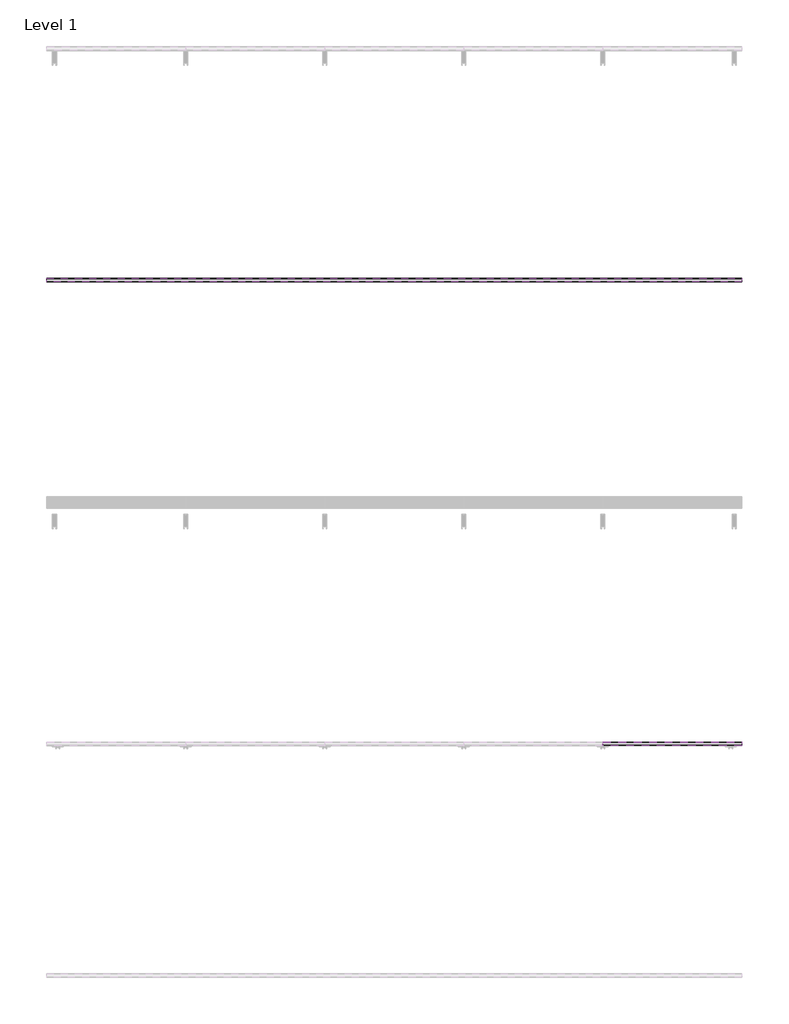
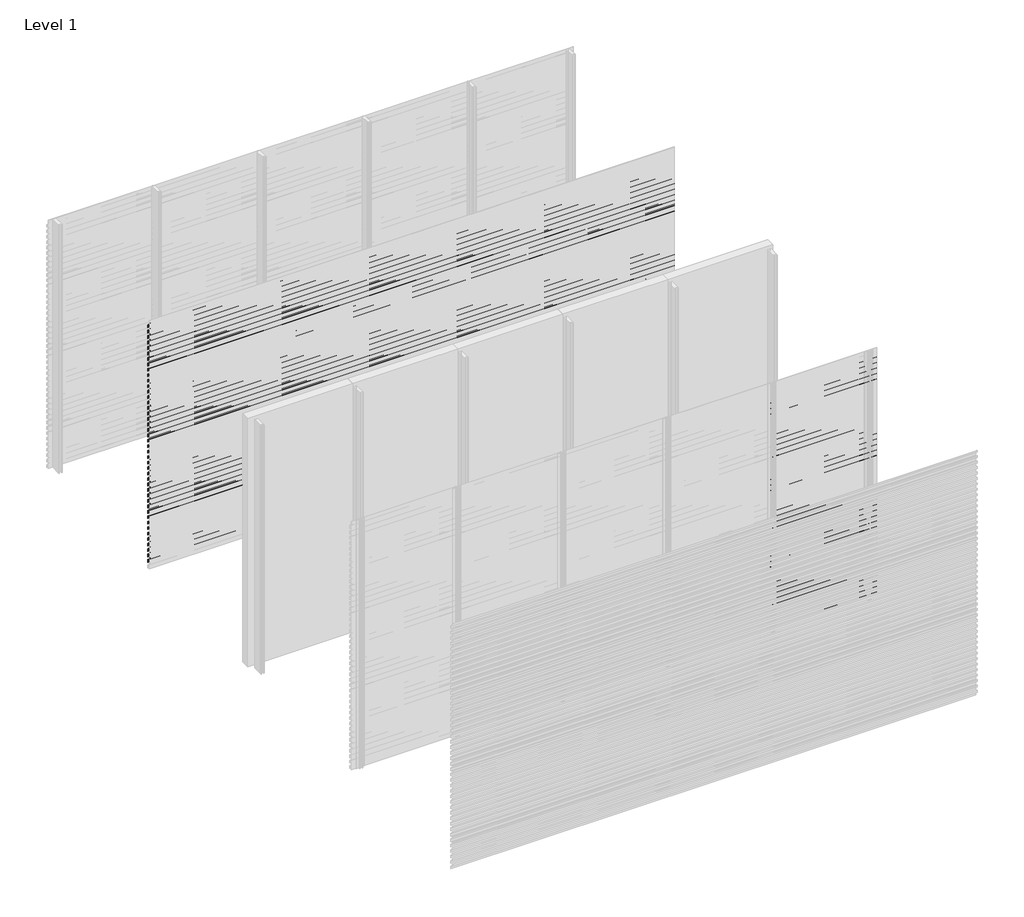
# One storey, part 6 of 33: 88 proxies.
"""IFC4 building model written with IfcOpenShell, lengths in millimetres."""

import ifcopenshell
import ifcopenshell.guid

model = None  # the IFC model being written
_history = None  # IfcOwnerHistory: only IFC2X3 demands one
_inside = {}  # id of a spatial element -> (the spatial element, [elements in it])
_under = {}  # id of a project, library or spatial element -> (it, [spatial elements below it])
_declared = {}  # id of a project -> (the project, [libraries it declares])
_typed = {}  # id of a type object -> (the type object, [elements of that type])
_made_of = {}  # id of a material, layer set ... -> (it, [elements and type objects made of it])


def new_model(schema):
    """Start an empty IFC model of exactly this schema.

    Asked for "IFC4X3", IfcOpenShell would pick the latest addendum, in which some entities
    have other attributes; the version numbers below select the first issue.
    IFC2X3 requires an IfcOwnerHistory on every rooted entity: one is made here for all.
    """
    global model, _history
    if schema == "IFC4X3":
        model = ifcopenshell.file(schema_version=(4, 3, 0, 0))
    else:
        model = ifcopenshell.file(schema=schema)
    _inside.clear()
    _under.clear()
    _declared.clear()
    _typed.clear()
    _made_of.clear()
    _history = None
    if model.schema == "IFC2X3":
        org = make("IfcOrganization", Name="unknown")
        user = make(
            "IfcPersonAndOrganization",
            ThePerson=make("IfcPerson", FamilyName="unknown"),
            TheOrganization=org,
        )
        app = make(
            "IfcApplication",
            ApplicationDeveloper=org,
            Version="unknown",
            ApplicationFullName="unknown",
            ApplicationIdentifier="unknown",
        )
        _history = make(
            "IfcOwnerHistory",
            OwningUser=user,
            OwningApplication=app,
            ChangeAction="ADDED",
            CreationDate=0,
        )
    return model


def make(cls, **values):
    """One entity of the class cls with the attributes given. An attribute that is None is left unset."""
    return model.create_entity(
        cls, **{name: value for name, value in values.items() if value is not None}
    )


def rooted(cls, **values):
    """An entity with a GlobalId (a new one), such as an element, a storey or a relation."""
    return make(cls, GlobalId=ifcopenshell.guid.new(), OwnerHistory=_history, **values)


def si_unit(unit_type, name, prefix=None):
    """IfcSIUnit, for example si_unit("LENGTHUNIT", "METRE", prefix="MILLI")."""
    return make("IfcSIUnit", UnitType=unit_type, Prefix=prefix, Name=name)


def assignment(units):
    """IfcUnitAssignment: the units of a project."""
    return None if units is None else make("IfcUnitAssignment", Units=units)


def point(xyz):
    """IfcCartesianPoint."""
    return None if xyz is None else make("IfcCartesianPoint", Coordinates=xyz)


def direction(xyz):
    """IfcDirection."""
    return None if xyz is None else make("IfcDirection", DirectionRatios=xyz)


def frame(location, z_axis=None, x_axis=None):
    """IfcAxis2Placement3D, a coordinate frame: its origin and axes. An axis left out is left unset."""
    return make(
        "IfcAxis2Placement3D",
        Location=point(location),
        Axis=direction(z_axis),
        RefDirection=direction(x_axis),
    )


def origin():
    """The frame at (0, 0, 0) with its axes left unset."""
    return frame((0.0, 0.0, 0.0))


def place(relative_to, where):
    """IfcLocalPlacement: puts the frame where relative to a parent placement (None: the world)."""
    return make(
        "IfcLocalPlacement", PlacementRelTo=relative_to, RelativePlacement=where
    )


def context(
    kind, dimensions, precision=None, world=None, true_north=None, identifier=None
):
    """IfcGeometricRepresentationContext, for example the 3D "Model" context."""
    return make(
        "IfcGeometricRepresentationContext",
        ContextIdentifier=identifier,
        ContextType=kind,
        CoordinateSpaceDimension=dimensions,
        Precision=precision,
        WorldCoordinateSystem=world,
        TrueNorth=true_north,
    )


def project(units=None, contexts=None):
    """IfcProject with its units and contexts."""
    return rooted(
        "IfcProject",
        Name="project",
        RepresentationContexts=contexts,
        UnitsInContext=assignment(units),
    )


def spatial(cls, under=None, at=None, **own):
    """A site, building, storey or space (cls), placed at a placement, below another one or the project."""
    s = rooted(cls, ObjectPlacement=at, **own)
    if under is not None:
        _under.setdefault(under.id(), (under, []))[1].append(s)
    return s


def polyline(points):
    """IfcPolyline through the points."""
    return make("IfcPolyline", Points=[point(p) for p in points])


def outline(outer, holes=None, kind="AREA"):
    """IfcArbitraryClosedProfileDef: a profile drawn as a closed curve; with holes, ...WithVoids."""
    if holes is None:
        return make("IfcArbitraryClosedProfileDef", ProfileType=kind, OuterCurve=outer)
    return make(
        "IfcArbitraryProfileDefWithVoids",
        ProfileType=kind,
        OuterCurve=outer,
        InnerCurves=holes,
    )


def extrude(swept, where, along, depth):
    """IfcExtrudedAreaSolid: the profile swept, set in the frame where, extruded along a direction by depth."""
    return make(
        "IfcExtrudedAreaSolid",
        SweptArea=swept,
        Position=where,
        ExtrudedDirection=direction(along),
        Depth=depth,
    )


def shape(context_of_items, identifier, shape_type, items):
    """IfcShapeRepresentation: the items that make up one representation, for example the "Body"."""
    return make(
        "IfcShapeRepresentation",
        ContextOfItems=context_of_items,
        RepresentationIdentifier=identifier,
        RepresentationType=shape_type,
        Items=items,
    )


def made_of(thing, what):
    """Note that an element or type object is made of a material, layer set ...; save() writes the relation."""
    if what is not None:
        _made_of.setdefault(what.id(), (what, []))[1].append(thing)
    return thing


def element(
    cls,
    number,
    at=None,
    inside=None,
    cuts=None,
    type_object=None,
    material=None,
    context=None,
    identifier="Body",
    shape_type=None,
    held_by="IfcProductDefinitionShape",
    body=None,
    shapes=None,
    **own,
):
    """One element of the class cls, such as IfcWall. Its Tag is "e" and its number.

    at: its placement. inside: the storey or other place that contains it. cuts: it is an
    opening in that element (IfcRelVoidsElement). A single representation is given by context,
    identifier, shape_type and body (its items); several are given by shapes. held_by: the class
    of the entity that holds the representations. save() writes the other relations.
    """
    e = rooted(cls, Tag="e%d" % number, ObjectPlacement=at, **own)
    if body is not None:
        shapes = [shape(context, identifier, shape_type, body)]
    if shapes is not None:
        e.Representation = make(held_by, Representations=shapes)
    if inside is not None:
        _inside.setdefault(inside.id(), (inside, []))[1].append(e)
    if cuts is not None:
        rooted(
            "IfcRelVoidsElement", RelatingBuildingElement=cuts, RelatedOpeningElement=e
        )
    if type_object is not None:
        _typed.setdefault(type_object.id(), (type_object, []))[1].append(e)
    return made_of(e, material)


def aggregate(whole, parts):
    """IfcRelAggregates: a whole, such as a stair, and the parts it consists of."""
    return rooted("IfcRelAggregates", RelatingObject=whole, RelatedObjects=parts)


def save(model, path):
    """Write the relations noted so far, then the file.

    IfcRelAggregates (storeys below a building ...), IfcRelContainedInSpatialStructure (elements
    in a storey), IfcRelDefinesByType, IfcRelAssociatesMaterial and IfcRelDeclares: one each for
    every whole, place, type object, material and project.
    """
    for whole, parts in _under.values():
        aggregate(whole, parts)
    for where, things in _inside.values():
        rooted(
            "IfcRelContainedInSpatialStructure",
            RelatedElements=things,
            RelatingStructure=where,
        )
    for kind, things in _typed.values():
        rooted("IfcRelDefinesByType", RelatedObjects=things, RelatingType=kind)
    for what, things in _made_of.values():
        rooted("IfcRelAssociatesMaterial", RelatedObjects=things, RelatingMaterial=what)
    for by, libraries in _declared.values():
        rooted("IfcRelDeclares", RelatingContext=by, RelatedDefinitions=libraries)
    model.write(path)


model = new_model("IFC4")

# Units and contexts
model_context = context("Model", 3, world=origin())
ifc_project = project(units=[si_unit("LENGTHUNIT", "METRE", prefix="MILLI")], contexts=[model_context])

# Site, building, storey
site = spatial("IfcSite", under=ifc_project)
building = spatial("IfcBuilding", under=site)
storey = spatial("IfcBuildingStorey", under=building, Name="Level 1", Elevation=0.0)

# Proxies
placement = place(None, origin())
element("IfcBuildingElementProxy", 1, Name="Wall Sweeps", at=placement, inside=storey, context=model_context, shape_type="SweptSolid", body=[
    extrude(outline(polyline([(-49967.0, 2930.0), (-49967.0, 2897.0), (-49968.25, 2897.7216933), (-49968.25, 2929.2872415), (-49998.0, 2950.0588647), (-49998.0, 2970.0), (-49996.75, 2970.0), (-49996.75, 2950.7716232), (-49967.0, 2930.0)])), frame((0.0, 0.0, 0.0), z_axis=(1.0, 0.0, 0.0), x_axis=(0.0, 1.0, 0.0)), (0.0, 0.0, 1.0), 6000.0),
])
element("IfcBuildingElementProxy", 2, Name="Wall Sweeps", at=placement, inside=storey, context=model_context, shape_type="SweptSolid", body=[
    extrude(outline(polyline([(-49967.0, 2864.0), (-49967.0, 2831.0), (-49968.25, 2831.7216933), (-49968.25, 2863.2872415), (-49998.0, 2884.0588647), (-49998.0, 2904.0), (-49996.75, 2904.0), (-49996.75, 2884.7716232), (-49967.0, 2864.0)])), frame((0.0, 0.0, 0.0), z_axis=(1.0, 0.0, 0.0), x_axis=(0.0, 1.0, 0.0)), (0.0, 0.0, 1.0), 6000.0),
])
element("IfcBuildingElementProxy", 3, Name="Wall Sweeps", at=placement, inside=storey, context=model_context, shape_type="SweptSolid", body=[
    extrude(outline(polyline([(-49967.0, 2798.0), (-49967.0, 2765.0), (-49968.25, 2765.7216933), (-49968.25, 2797.2872415), (-49998.0, 2818.0588647), (-49998.0, 2838.0), (-49996.75, 2838.0), (-49996.75, 2818.7716232), (-49967.0, 2798.0)])), frame((0.0, 0.0, 0.0), z_axis=(1.0, 0.0, 0.0), x_axis=(0.0, 1.0, 0.0)), (0.0, 0.0, 1.0), 6000.0),
])
element("IfcBuildingElementProxy", 4, Name="Wall Sweeps", at=placement, inside=storey, context=model_context, shape_type="SweptSolid", body=[
    extrude(outline(polyline([(-49967.0, 2732.0), (-49967.0, 2699.0), (-49968.25, 2699.7216933), (-49968.25, 2731.2872415), (-49998.0, 2752.0588647), (-49998.0, 2772.0), (-49996.75, 2772.0), (-49996.75, 2752.7716232), (-49967.0, 2732.0)])), frame((0.0, 0.0, 0.0), z_axis=(1.0, 0.0, 0.0), x_axis=(0.0, 1.0, 0.0)), (0.0, 0.0, 1.0), 6000.0),
])
element("IfcBuildingElementProxy", 5, Name="Wall Sweeps", at=placement, inside=storey, context=model_context, shape_type="SweptSolid", body=[
    extrude(outline(polyline([(-49967.0, 2666.0), (-49967.0, 2633.0), (-49968.25, 2633.7216933), (-49968.25, 2665.2872415), (-49998.0, 2686.0588647), (-49998.0, 2706.0), (-49996.75, 2706.0), (-49996.75, 2686.7716232), (-49967.0, 2666.0)])), frame((0.0, 0.0, 0.0), z_axis=(1.0, 0.0, 0.0), x_axis=(0.0, 1.0, 0.0)), (0.0, 0.0, 1.0), 6000.0),
])
element("IfcBuildingElementProxy", 6, Name="Wall Sweeps", at=placement, inside=storey, context=model_context, shape_type="SweptSolid", body=[
    extrude(outline(polyline([(-49967.0, 2600.0), (-49967.0, 2567.0), (-49968.25, 2567.7216933), (-49968.25, 2599.2872415), (-49998.0, 2620.0588647), (-49998.0, 2640.0), (-49996.75, 2640.0), (-49996.75, 2620.7716232), (-49967.0, 2600.0)])), frame((0.0, 0.0, 0.0), z_axis=(1.0, 0.0, 0.0), x_axis=(0.0, 1.0, 0.0)), (0.0, 0.0, 1.0), 6000.0),
])
element("IfcBuildingElementProxy", 7, Name="Wall Sweeps", at=placement, inside=storey, context=model_context, shape_type="SweptSolid", body=[
    extrude(outline(polyline([(-49967.0, 2534.0), (-49967.0, 2501.0), (-49968.25, 2501.7216933), (-49968.25, 2533.2872415), (-49998.0, 2554.0588647), (-49998.0, 2574.0), (-49996.75, 2574.0), (-49996.75, 2554.7716232), (-49967.0, 2534.0)])), frame((0.0, 0.0, 0.0), z_axis=(1.0, 0.0, 0.0), x_axis=(0.0, 1.0, 0.0)), (0.0, 0.0, 1.0), 6000.0),
])
element("IfcBuildingElementProxy", 8, Name="Wall Sweeps", at=placement, inside=storey, context=model_context, shape_type="SweptSolid", body=[
    extrude(outline(polyline([(-49967.0, 2468.0), (-49967.0, 2435.0), (-49968.25, 2435.7216933), (-49968.25, 2467.2872415), (-49998.0, 2488.0588647), (-49998.0, 2508.0), (-49996.75, 2508.0), (-49996.75, 2488.7716232), (-49967.0, 2468.0)])), frame((0.0, 0.0, 0.0), z_axis=(1.0, 0.0, 0.0), x_axis=(0.0, 1.0, 0.0)), (0.0, 0.0, 1.0), 6000.0),
])
element("IfcBuildingElementProxy", 9, Name="Wall Sweeps", at=placement, inside=storey, context=model_context, shape_type="SweptSolid", body=[
    extrude(outline(polyline([(-49967.0, 2402.0), (-49967.0, 2369.0), (-49968.25, 2369.7216933), (-49968.25, 2401.2872415), (-49998.0, 2422.0588647), (-49998.0, 2442.0), (-49996.75, 2442.0), (-49996.75, 2422.7716232), (-49967.0, 2402.0)])), frame((0.0, 0.0, 0.0), z_axis=(1.0, 0.0, 0.0), x_axis=(0.0, 1.0, 0.0)), (0.0, 0.0, 1.0), 6000.0),
])
element("IfcBuildingElementProxy", 10, Name="Wall Sweeps", at=placement, inside=storey, context=model_context, shape_type="SweptSolid", body=[
    extrude(outline(polyline([(-49967.0, 2336.0), (-49967.0, 2303.0), (-49968.25, 2303.7216933), (-49968.25, 2335.2872415), (-49998.0, 2356.0588647), (-49998.0, 2376.0), (-49996.75, 2376.0), (-49996.75, 2356.7716232), (-49967.0, 2336.0)])), frame((0.0, 0.0, 0.0), z_axis=(1.0, 0.0, 0.0), x_axis=(0.0, 1.0, 0.0)), (0.0, 0.0, 1.0), 6000.0),
])
element("IfcBuildingElementProxy", 11, Name="Wall Sweeps", at=placement, inside=storey, context=model_context, shape_type="SweptSolid", body=[
    extrude(outline(polyline([(-49967.0, 2270.0), (-49967.0, 2237.0), (-49968.25, 2237.7216933), (-49968.25, 2269.2872415), (-49998.0, 2290.0588647), (-49998.0, 2310.0), (-49996.75, 2310.0), (-49996.75, 2290.7716232), (-49967.0, 2270.0)])), frame((0.0, 0.0, 0.0), z_axis=(1.0, 0.0, 0.0), x_axis=(0.0, 1.0, 0.0)), (0.0, 0.0, 1.0), 6000.0),
])
element("IfcBuildingElementProxy", 12, Name="Wall Sweeps", at=placement, inside=storey, context=model_context, shape_type="SweptSolid", body=[
    extrude(outline(polyline([(-49967.0, 2204.0), (-49967.0, 2171.0), (-49968.25, 2171.7216933), (-49968.25, 2203.2872415), (-49998.0, 2224.0588647), (-49998.0, 2244.0), (-49996.75, 2244.0), (-49996.75, 2224.7716232), (-49967.0, 2204.0)])), frame((0.0, 0.0, 0.0), z_axis=(1.0, 0.0, 0.0), x_axis=(0.0, 1.0, 0.0)), (0.0, 0.0, 1.0), 6000.0),
])
element("IfcBuildingElementProxy", 13, Name="Wall Sweeps", at=placement, inside=storey, context=model_context, shape_type="SweptSolid", body=[
    extrude(outline(polyline([(-49967.0, 2138.0), (-49967.0, 2105.0), (-49968.25, 2105.7216933), (-49968.25, 2137.2872415), (-49998.0, 2158.0588647), (-49998.0, 2178.0), (-49996.75, 2178.0), (-49996.75, 2158.7716232), (-49967.0, 2138.0)])), frame((0.0, 0.0, 0.0), z_axis=(1.0, 0.0, 0.0), x_axis=(0.0, 1.0, 0.0)), (0.0, 0.0, 1.0), 6000.0),
])
element("IfcBuildingElementProxy", 14, Name="Wall Sweeps", at=placement, inside=storey, context=model_context, shape_type="SweptSolid", body=[
    extrude(outline(polyline([(-49967.0, 2072.0), (-49967.0, 2039.0), (-49968.25, 2039.7216933), (-49968.25, 2071.2872415), (-49998.0, 2092.0588647), (-49998.0, 2112.0), (-49996.75, 2112.0), (-49996.75, 2092.7716232), (-49967.0, 2072.0)])), frame((0.0, 0.0, 0.0), z_axis=(1.0, 0.0, 0.0), x_axis=(0.0, 1.0, 0.0)), (0.0, 0.0, 1.0), 6000.0),
])
element("IfcBuildingElementProxy", 15, Name="Wall Sweeps", at=placement, inside=storey, context=model_context, shape_type="SweptSolid", body=[
    extrude(outline(polyline([(-49967.0, 2006.0), (-49967.0, 1973.0), (-49968.25, 1973.7216933), (-49968.25, 2005.2872415), (-49998.0, 2026.0588647), (-49998.0, 2046.0), (-49996.75, 2046.0), (-49996.75, 2026.7716232), (-49967.0, 2006.0)])), frame((0.0, 0.0, 0.0), z_axis=(1.0, 0.0, 0.0), x_axis=(0.0, 1.0, 0.0)), (0.0, 0.0, 1.0), 6000.0),
])
element("IfcBuildingElementProxy", 16, Name="Wall Sweeps", at=placement, inside=storey, context=model_context, shape_type="SweptSolid", body=[
    extrude(outline(polyline([(-49967.0, 1940.0), (-49967.0, 1907.0), (-49968.25, 1907.7216933), (-49968.25, 1939.2872415), (-49998.0, 1960.0588647), (-49998.0, 1980.0), (-49996.75, 1980.0), (-49996.75, 1960.7716232), (-49967.0, 1940.0)])), frame((0.0, 0.0, 0.0), z_axis=(1.0, 0.0, 0.0), x_axis=(0.0, 1.0, 0.0)), (0.0, 0.0, 1.0), 6000.0),
])
element("IfcBuildingElementProxy", 17, Name="Wall Sweeps", at=placement, inside=storey, context=model_context, shape_type="SweptSolid", body=[
    extrude(outline(polyline([(-49967.0, 1874.0), (-49967.0, 1841.0), (-49968.25, 1841.7216933), (-49968.25, 1873.2872415), (-49998.0, 1894.0588647), (-49998.0, 1914.0), (-49996.75, 1914.0), (-49996.75, 1894.7716232), (-49967.0, 1874.0)])), frame((0.0, 0.0, 0.0), z_axis=(1.0, 0.0, 0.0), x_axis=(0.0, 1.0, 0.0)), (0.0, 0.0, 1.0), 6000.0),
])
element("IfcBuildingElementProxy", 18, Name="Wall Sweeps", at=placement, inside=storey, context=model_context, shape_type="SweptSolid", body=[
    extrude(outline(polyline([(-49967.0, 1808.0), (-49967.0, 1775.0), (-49968.25, 1775.7216933), (-49968.25, 1807.2872415), (-49998.0, 1828.0588647), (-49998.0, 1848.0), (-49996.75, 1848.0), (-49996.75, 1828.7716232), (-49967.0, 1808.0)])), frame((0.0, 0.0, 0.0), z_axis=(1.0, 0.0, 0.0), x_axis=(0.0, 1.0, 0.0)), (0.0, 0.0, 1.0), 6000.0),
])
element("IfcBuildingElementProxy", 19, Name="Wall Sweeps", at=placement, inside=storey, context=model_context, shape_type="SweptSolid", body=[
    extrude(outline(polyline([(-49967.0, 1742.0), (-49967.0, 1709.0), (-49968.25, 1709.7216933), (-49968.25, 1741.2872415), (-49998.0, 1762.0588647), (-49998.0, 1782.0), (-49996.75, 1782.0), (-49996.75, 1762.7716232), (-49967.0, 1742.0)])), frame((0.0, 0.0, 0.0), z_axis=(1.0, 0.0, 0.0), x_axis=(0.0, 1.0, 0.0)), (0.0, 0.0, 1.0), 6000.0),
])
element("IfcBuildingElementProxy", 20, Name="Wall Sweeps", at=placement, inside=storey, context=model_context, shape_type="SweptSolid", body=[
    extrude(outline(polyline([(-49967.0, 1676.0), (-49967.0, 1643.0), (-49968.25, 1643.7216933), (-49968.25, 1675.2872415), (-49998.0, 1696.0588647), (-49998.0, 1716.0), (-49996.75, 1716.0), (-49996.75, 1696.7716232), (-49967.0, 1676.0)])), frame((0.0, 0.0, 0.0), z_axis=(1.0, 0.0, 0.0), x_axis=(0.0, 1.0, 0.0)), (0.0, 0.0, 1.0), 6000.0),
])
element("IfcBuildingElementProxy", 21, Name="Wall Sweeps", at=placement, inside=storey, context=model_context, shape_type="SweptSolid", body=[
    extrude(outline(polyline([(-49967.0, 1610.0), (-49967.0, 1577.0), (-49968.25, 1577.7216933), (-49968.25, 1609.2872415), (-49998.0, 1630.0588647), (-49998.0, 1650.0), (-49996.75, 1650.0), (-49996.75, 1630.7716232), (-49967.0, 1610.0)])), frame((0.0, 0.0, 0.0), z_axis=(1.0, 0.0, 0.0), x_axis=(0.0, 1.0, 0.0)), (0.0, 0.0, 1.0), 6000.0),
])
element("IfcBuildingElementProxy", 22, Name="Wall Sweeps", at=placement, inside=storey, context=model_context, shape_type="SweptSolid", body=[
    extrude(outline(polyline([(-49967.0, 1544.0), (-49967.0, 1511.0), (-49968.25, 1511.7216933), (-49968.25, 1543.2872415), (-49998.0, 1564.0588647), (-49998.0, 1584.0), (-49996.75, 1584.0), (-49996.75, 1564.7716232), (-49967.0, 1544.0)])), frame((0.0, 0.0, 0.0), z_axis=(1.0, 0.0, 0.0), x_axis=(0.0, 1.0, 0.0)), (0.0, 0.0, 1.0), 6000.0),
])
element("IfcBuildingElementProxy", 23, Name="Wall Sweeps", at=placement, inside=storey, context=model_context, shape_type="SweptSolid", body=[
    extrude(outline(polyline([(-49967.0, 1478.0), (-49967.0, 1445.0), (-49968.25, 1445.7216933), (-49968.25, 1477.2872415), (-49998.0, 1498.0588647), (-49998.0, 1518.0), (-49996.75, 1518.0), (-49996.75, 1498.7716232), (-49967.0, 1478.0)])), frame((0.0, 0.0, 0.0), z_axis=(1.0, 0.0, 0.0), x_axis=(0.0, 1.0, 0.0)), (0.0, 0.0, 1.0), 6000.0),
])
element("IfcBuildingElementProxy", 24, Name="Wall Sweeps", at=placement, inside=storey, context=model_context, shape_type="SweptSolid", body=[
    extrude(outline(polyline([(-49967.0, 1412.0), (-49967.0, 1379.0), (-49968.25, 1379.7216933), (-49968.25, 1411.2872415), (-49998.0, 1432.0588647), (-49998.0, 1452.0), (-49996.75, 1452.0), (-49996.75, 1432.7716232), (-49967.0, 1412.0)])), frame((0.0, 0.0, 0.0), z_axis=(1.0, 0.0, 0.0), x_axis=(0.0, 1.0, 0.0)), (0.0, 0.0, 1.0), 6000.0),
])
element("IfcBuildingElementProxy", 25, Name="Wall Sweeps", at=placement, inside=storey, context=model_context, shape_type="SweptSolid", body=[
    extrude(outline(polyline([(-49967.0, 1346.0), (-49967.0, 1313.0), (-49968.25, 1313.7216933), (-49968.25, 1345.2872415), (-49998.0, 1366.0588647), (-49998.0, 1386.0), (-49996.75, 1386.0), (-49996.75, 1366.7716232), (-49967.0, 1346.0)])), frame((0.0, 0.0, 0.0), z_axis=(1.0, 0.0, 0.0), x_axis=(0.0, 1.0, 0.0)), (0.0, 0.0, 1.0), 6000.0),
])
element("IfcBuildingElementProxy", 26, Name="Wall Sweeps", at=placement, inside=storey, context=model_context, shape_type="SweptSolid", body=[
    extrude(outline(polyline([(-49967.0, 1280.0), (-49967.0, 1247.0), (-49968.25, 1247.7216933), (-49968.25, 1279.2872415), (-49998.0, 1300.0588647), (-49998.0, 1320.0), (-49996.75, 1320.0), (-49996.75, 1300.7716232), (-49967.0, 1280.0)])), frame((0.0, 0.0, 0.0), z_axis=(1.0, 0.0, 0.0), x_axis=(0.0, 1.0, 0.0)), (0.0, 0.0, 1.0), 6000.0),
])
element("IfcBuildingElementProxy", 27, Name="Wall Sweeps", at=placement, inside=storey, context=model_context, shape_type="SweptSolid", body=[
    extrude(outline(polyline([(-49967.0, 1214.0), (-49967.0, 1181.0), (-49968.25, 1181.7216933), (-49968.25, 1213.2872415), (-49998.0, 1234.0588647), (-49998.0, 1254.0), (-49996.75, 1254.0), (-49996.75, 1234.7716232), (-49967.0, 1214.0)])), frame((0.0, 0.0, 0.0), z_axis=(1.0, 0.0, 0.0), x_axis=(0.0, 1.0, 0.0)), (0.0, 0.0, 1.0), 6000.0),
])
element("IfcBuildingElementProxy", 28, Name="Wall Sweeps", at=placement, inside=storey, context=model_context, shape_type="SweptSolid", body=[
    extrude(outline(polyline([(-49967.0, 1148.0), (-49967.0, 1115.0), (-49968.25, 1115.7216933), (-49968.25, 1147.2872415), (-49998.0, 1168.0588647), (-49998.0, 1188.0), (-49996.75, 1188.0), (-49996.75, 1168.7716232), (-49967.0, 1148.0)])), frame((0.0, 0.0, 0.0), z_axis=(1.0, 0.0, 0.0), x_axis=(0.0, 1.0, 0.0)), (0.0, 0.0, 1.0), 6000.0),
])
element("IfcBuildingElementProxy", 29, Name="Wall Sweeps", at=placement, inside=storey, context=model_context, shape_type="SweptSolid", body=[
    extrude(outline(polyline([(-49967.0, 1082.0), (-49967.0, 1049.0), (-49968.25, 1049.7216933), (-49968.25, 1081.2872415), (-49998.0, 1102.0588647), (-49998.0, 1122.0), (-49996.75, 1122.0), (-49996.75, 1102.7716232), (-49967.0, 1082.0)])), frame((0.0, 0.0, 0.0), z_axis=(1.0, 0.0, 0.0), x_axis=(0.0, 1.0, 0.0)), (0.0, 0.0, 1.0), 6000.0),
])
element("IfcBuildingElementProxy", 30, Name="Wall Sweeps", at=placement, inside=storey, context=model_context, shape_type="SweptSolid", body=[
    extrude(outline(polyline([(-49967.0, 1016.0), (-49967.0, 983.0), (-49968.25, 983.7216933), (-49968.25, 1015.2872415), (-49998.0, 1036.0588647), (-49998.0, 1056.0), (-49996.75, 1056.0), (-49996.75, 1036.7716232), (-49967.0, 1016.0)])), frame((0.0, 0.0, 0.0), z_axis=(1.0, 0.0, 0.0), x_axis=(0.0, 1.0, 0.0)), (0.0, 0.0, 1.0), 6000.0),
])
element("IfcBuildingElementProxy", 31, Name="Wall Sweeps", at=placement, inside=storey, context=model_context, shape_type="SweptSolid", body=[
    extrude(outline(polyline([(-49967.0, 950.0), (-49967.0, 917.0), (-49968.25, 917.7216933), (-49968.25, 949.2872415), (-49998.0, 970.0588647), (-49998.0, 990.0), (-49996.75, 990.0), (-49996.75, 970.7716232), (-49967.0, 950.0)])), frame((0.0, 0.0, 0.0), z_axis=(1.0, 0.0, 0.0), x_axis=(0.0, 1.0, 0.0)), (0.0, 0.0, 1.0), 6000.0),
])
element("IfcBuildingElementProxy", 32, Name="Wall Sweeps", at=placement, inside=storey, context=model_context, shape_type="SweptSolid", body=[
    extrude(outline(polyline([(-49967.0, 884.0), (-49967.0, 851.0), (-49968.25, 851.7216933), (-49968.25, 883.2872415), (-49998.0, 904.0588647), (-49998.0, 924.0), (-49996.75, 924.0), (-49996.75, 904.7716232), (-49967.0, 884.0)])), frame((0.0, 0.0, 0.0), z_axis=(1.0, 0.0, 0.0), x_axis=(0.0, 1.0, 0.0)), (0.0, 0.0, 1.0), 6000.0),
])
element("IfcBuildingElementProxy", 33, Name="Wall Sweeps", at=placement, inside=storey, context=model_context, shape_type="SweptSolid", body=[
    extrude(outline(polyline([(-49967.0, 818.0), (-49967.0, 785.0), (-49968.25, 785.7216933), (-49968.25, 817.2872415), (-49998.0, 838.0588647), (-49998.0, 858.0), (-49996.75, 858.0), (-49996.75, 838.7716232), (-49967.0, 818.0)])), frame((0.0, 0.0, 0.0), z_axis=(1.0, 0.0, 0.0), x_axis=(0.0, 1.0, 0.0)), (0.0, 0.0, 1.0), 6000.0),
])
element("IfcBuildingElementProxy", 34, Name="Wall Sweeps", at=placement, inside=storey, context=model_context, shape_type="SweptSolid", body=[
    extrude(outline(polyline([(-49967.0, 752.0), (-49967.0, 719.0), (-49968.25, 719.7216933), (-49968.25, 751.2872415), (-49998.0, 772.0588647), (-49998.0, 792.0), (-49996.75, 792.0), (-49996.75, 772.7716232), (-49967.0, 752.0)])), frame((0.0, 0.0, 0.0), z_axis=(1.0, 0.0, 0.0), x_axis=(0.0, 1.0, 0.0)), (0.0, 0.0, 1.0), 6000.0),
])
element("IfcBuildingElementProxy", 35, Name="Wall Sweeps", at=placement, inside=storey, context=model_context, shape_type="SweptSolid", body=[
    extrude(outline(polyline([(-49967.0, 686.0), (-49967.0, 653.0), (-49968.25, 653.7216933), (-49968.25, 685.2872415), (-49998.0, 706.0588647), (-49998.0, 726.0), (-49996.75, 726.0), (-49996.75, 706.7716232), (-49967.0, 686.0)])), frame((0.0, 0.0, 0.0), z_axis=(1.0, 0.0, 0.0), x_axis=(0.0, 1.0, 0.0)), (0.0, 0.0, 1.0), 6000.0),
])
element("IfcBuildingElementProxy", 36, Name="Wall Sweeps", at=placement, inside=storey, context=model_context, shape_type="SweptSolid", body=[
    extrude(outline(polyline([(-49967.0, 620.0), (-49967.0, 587.0), (-49968.25, 587.7216933), (-49968.25, 619.2872415), (-49998.0, 640.0588647), (-49998.0, 660.0), (-49996.75, 660.0), (-49996.75, 640.7716232), (-49967.0, 620.0)])), frame((0.0, 0.0, 0.0), z_axis=(1.0, 0.0, 0.0), x_axis=(0.0, 1.0, 0.0)), (0.0, 0.0, 1.0), 6000.0),
])
element("IfcBuildingElementProxy", 37, Name="Wall Sweeps", at=placement, inside=storey, context=model_context, shape_type="SweptSolid", body=[
    extrude(outline(polyline([(-49967.0, 554.0), (-49967.0, 521.0), (-49968.25, 521.7216933), (-49968.25, 553.2872415), (-49998.0, 574.0588647), (-49998.0, 594.0), (-49996.75, 594.0), (-49996.75, 574.7716232), (-49967.0, 554.0)])), frame((0.0, 0.0, 0.0), z_axis=(1.0, 0.0, 0.0), x_axis=(0.0, 1.0, 0.0)), (0.0, 0.0, 1.0), 6000.0),
])
element("IfcBuildingElementProxy", 38, Name="Wall Sweeps", at=placement, inside=storey, context=model_context, shape_type="SweptSolid", body=[
    extrude(outline(polyline([(-49967.0, 488.0), (-49967.0, 455.0), (-49968.25, 455.7216933), (-49968.25, 487.2872415), (-49998.0, 508.0588647), (-49998.0, 528.0), (-49996.75, 528.0), (-49996.75, 508.7716232), (-49967.0, 488.0)])), frame((0.0, 0.0, 0.0), z_axis=(1.0, 0.0, 0.0), x_axis=(0.0, 1.0, 0.0)), (0.0, 0.0, 1.0), 6000.0),
])
element("IfcBuildingElementProxy", 39, Name="Wall Sweeps", at=placement, inside=storey, context=model_context, shape_type="SweptSolid", body=[
    extrude(outline(polyline([(-49967.0, 422.0), (-49967.0, 389.0), (-49968.25, 389.7216933), (-49968.25, 421.2872415), (-49998.0, 442.0588647), (-49998.0, 462.0), (-49996.75, 462.0), (-49996.75, 442.7716232), (-49967.0, 422.0)])), frame((0.0, 0.0, 0.0), z_axis=(1.0, 0.0, 0.0), x_axis=(0.0, 1.0, 0.0)), (0.0, 0.0, 1.0), 6000.0),
])
element("IfcBuildingElementProxy", 40, Name="Wall Sweeps", at=placement, inside=storey, context=model_context, shape_type="SweptSolid", body=[
    extrude(outline(polyline([(-49967.0, 356.0), (-49967.0, 323.0), (-49968.25, 323.7216933), (-49968.25, 355.2872415), (-49998.0, 376.0588647), (-49998.0, 396.0), (-49996.75, 396.0), (-49996.75, 376.7716232), (-49967.0, 356.0)])), frame((0.0, 0.0, 0.0), z_axis=(1.0, 0.0, 0.0), x_axis=(0.0, 1.0, 0.0)), (0.0, 0.0, 1.0), 6000.0),
])
element("IfcBuildingElementProxy", 41, Name="Wall Sweeps", at=placement, inside=storey, context=model_context, shape_type="SweptSolid", body=[
    extrude(outline(polyline([(-49967.0, 290.0), (-49967.0, 257.0), (-49968.25, 257.7216933), (-49968.25, 289.2872415), (-49998.0, 310.0588647), (-49998.0, 330.0), (-49996.75, 330.0), (-49996.75, 310.7716232), (-49967.0, 290.0)])), frame((0.0, 0.0, 0.0), z_axis=(1.0, 0.0, 0.0), x_axis=(0.0, 1.0, 0.0)), (0.0, 0.0, 1.0), 6000.0),
])
element("IfcBuildingElementProxy", 42, Name="Wall Sweeps", at=placement, inside=storey, context=model_context, shape_type="SweptSolid", body=[
    extrude(outline(polyline([(-49967.0, 224.0), (-49967.0, 191.0), (-49968.25, 191.7216933), (-49968.25, 223.2872415), (-49998.0, 244.0588647), (-49998.0, 264.0), (-49996.75, 264.0), (-49996.75, 244.7716232), (-49967.0, 224.0)])), frame((0.0, 0.0, 0.0), z_axis=(1.0, 0.0, 0.0), x_axis=(0.0, 1.0, 0.0)), (0.0, 0.0, 1.0), 6000.0),
])
element("IfcBuildingElementProxy", 43, Name="Wall Sweeps", at=placement, inside=storey, context=model_context, shape_type="SweptSolid", body=[
    extrude(outline(polyline([(-49967.0, 158.0), (-49967.0, 125.0), (-49968.25, 125.7216933), (-49968.25, 157.2872415), (-49998.0, 178.0588647), (-49998.0, 198.0), (-49996.75, 198.0), (-49996.75, 178.7716232), (-49967.0, 158.0)])), frame((0.0, 0.0, 0.0), z_axis=(1.0, 0.0, 0.0), x_axis=(0.0, 1.0, 0.0)), (0.0, 0.0, 1.0), 6000.0),
])
element("IfcBuildingElementProxy", 44, Name="Wall Sweeps", at=placement, inside=storey, context=model_context, shape_type="SweptSolid", body=[
    extrude(outline(polyline([(-49967.0, 92.0), (-49967.0, 59.0), (-49968.25, 59.7216933), (-49968.25, 91.2872415), (-49998.0, 112.0588647), (-49998.0, 132.0), (-49996.75, 132.0), (-49996.75, 112.7716232), (-49967.0, 92.0)])), frame((0.0, 0.0, 0.0), z_axis=(1.0, 0.0, 0.0), x_axis=(0.0, 1.0, 0.0)), (0.0, 0.0, 1.0), 6000.0),
])
element("IfcBuildingElementProxy", 45, Name="Wall Sweeps", at=placement, inside=storey, context=model_context, shape_type="SweptSolid", body=[
    extrude(outline(polyline([(-53967.0, 2864.0), (-53967.0, 2831.0), (-53968.25, 2831.7216933), (-53968.25, 2863.2872415), (-53998.0, 2884.0588647), (-53998.0, 2904.0), (-53996.75, 2904.0), (-53996.75, 2884.7716232), (-53967.0, 2864.0)])), frame((4800.0, 0.0, 0.0), z_axis=(1.0, 0.0, 0.0), x_axis=(0.0, 1.0, 0.0)), (0.0, 0.0, 1.0), 1200.0),
])
element("IfcBuildingElementProxy", 46, Name="Wall Sweeps", at=placement, inside=storey, context=model_context, shape_type="SweptSolid", body=[
    extrude(outline(polyline([(-53967.0, 2798.0), (-53967.0, 2765.0), (-53968.25, 2765.7216933), (-53968.25, 2797.2872415), (-53998.0, 2818.0588647), (-53998.0, 2838.0), (-53996.75, 2838.0), (-53996.75, 2818.7716232), (-53967.0, 2798.0)])), frame((4800.0, 0.0, 0.0), z_axis=(1.0, 0.0, 0.0), x_axis=(0.0, 1.0, 0.0)), (0.0, 0.0, 1.0), 1200.0),
])
element("IfcBuildingElementProxy", 47, Name="Wall Sweeps", at=placement, inside=storey, context=model_context, shape_type="SweptSolid", body=[
    extrude(outline(polyline([(-53967.0, 2732.0), (-53967.0, 2699.0), (-53968.25, 2699.7216933), (-53968.25, 2731.2872415), (-53998.0, 2752.0588647), (-53998.0, 2772.0), (-53996.75, 2772.0), (-53996.75, 2752.7716232), (-53967.0, 2732.0)])), frame((4800.0, 0.0, 0.0), z_axis=(1.0, 0.0, 0.0), x_axis=(0.0, 1.0, 0.0)), (0.0, 0.0, 1.0), 1200.0),
])
element("IfcBuildingElementProxy", 48, Name="Wall Sweeps", at=placement, inside=storey, context=model_context, shape_type="SweptSolid", body=[
    extrude(outline(polyline([(-53967.0, 2666.0), (-53967.0, 2633.0), (-53968.25, 2633.7216933), (-53968.25, 2665.2872415), (-53998.0, 2686.0588647), (-53998.0, 2706.0), (-53996.75, 2706.0), (-53996.75, 2686.7716232), (-53967.0, 2666.0)])), frame((4800.0, 0.0, 0.0), z_axis=(1.0, 0.0, 0.0), x_axis=(0.0, 1.0, 0.0)), (0.0, 0.0, 1.0), 1200.0),
])
element("IfcBuildingElementProxy", 49, Name="Wall Sweeps", at=placement, inside=storey, context=model_context, shape_type="SweptSolid", body=[
    extrude(outline(polyline([(-53967.0, 2600.0), (-53967.0, 2567.0), (-53968.25, 2567.7216933), (-53968.25, 2599.2872415), (-53998.0, 2620.0588647), (-53998.0, 2640.0), (-53996.75, 2640.0), (-53996.75, 2620.7716232), (-53967.0, 2600.0)])), frame((4800.0, 0.0, 0.0), z_axis=(1.0, 0.0, 0.0), x_axis=(0.0, 1.0, 0.0)), (0.0, 0.0, 1.0), 1200.0),
])
element("IfcBuildingElementProxy", 50, Name="Wall Sweeps", at=placement, inside=storey, context=model_context, shape_type="SweptSolid", body=[
    extrude(outline(polyline([(-53967.0, 2534.0), (-53967.0, 2501.0), (-53968.25, 2501.7216933), (-53968.25, 2533.2872415), (-53998.0, 2554.0588647), (-53998.0, 2574.0), (-53996.75, 2574.0), (-53996.75, 2554.7716232), (-53967.0, 2534.0)])), frame((4800.0, 0.0, 0.0), z_axis=(1.0, 0.0, 0.0), x_axis=(0.0, 1.0, 0.0)), (0.0, 0.0, 1.0), 1200.0),
])
element("IfcBuildingElementProxy", 51, Name="Wall Sweeps", at=placement, inside=storey, context=model_context, shape_type="SweptSolid", body=[
    extrude(outline(polyline([(-53967.0, 2468.0), (-53967.0, 2435.0), (-53968.25, 2435.7216933), (-53968.25, 2467.2872415), (-53998.0, 2488.0588647), (-53998.0, 2508.0), (-53996.75, 2508.0), (-53996.75, 2488.7716232), (-53967.0, 2468.0)])), frame((4800.0, 0.0, 0.0), z_axis=(1.0, 0.0, 0.0), x_axis=(0.0, 1.0, 0.0)), (0.0, 0.0, 1.0), 1200.0),
])
element("IfcBuildingElementProxy", 52, Name="Wall Sweeps", at=placement, inside=storey, context=model_context, shape_type="SweptSolid", body=[
    extrude(outline(polyline([(-53967.0, 2402.0), (-53967.0, 2369.0), (-53968.25, 2369.7216933), (-53968.25, 2401.2872415), (-53998.0, 2422.0588647), (-53998.0, 2442.0), (-53996.75, 2442.0), (-53996.75, 2422.7716232), (-53967.0, 2402.0)])), frame((4800.0, 0.0, 0.0), z_axis=(1.0, 0.0, 0.0), x_axis=(0.0, 1.0, 0.0)), (0.0, 0.0, 1.0), 1200.0),
])
element("IfcBuildingElementProxy", 53, Name="Wall Sweeps", at=placement, inside=storey, context=model_context, shape_type="SweptSolid", body=[
    extrude(outline(polyline([(-53967.0, 2336.0), (-53967.0, 2303.0), (-53968.25, 2303.7216933), (-53968.25, 2335.2872415), (-53998.0, 2356.0588647), (-53998.0, 2376.0), (-53996.75, 2376.0), (-53996.75, 2356.7716232), (-53967.0, 2336.0)])), frame((4800.0, 0.0, 0.0), z_axis=(1.0, 0.0, 0.0), x_axis=(0.0, 1.0, 0.0)), (0.0, 0.0, 1.0), 1200.0),
])
element("IfcBuildingElementProxy", 54, Name="Wall Sweeps", at=placement, inside=storey, context=model_context, shape_type="SweptSolid", body=[
    extrude(outline(polyline([(-53967.0, 2270.0), (-53967.0, 2237.0), (-53968.25, 2237.7216933), (-53968.25, 2269.2872415), (-53998.0, 2290.0588647), (-53998.0, 2310.0), (-53996.75, 2310.0), (-53996.75, 2290.7716232), (-53967.0, 2270.0)])), frame((4800.0, 0.0, 0.0), z_axis=(1.0, 0.0, 0.0), x_axis=(0.0, 1.0, 0.0)), (0.0, 0.0, 1.0), 1200.0),
])
element("IfcBuildingElementProxy", 55, Name="Wall Sweeps", at=placement, inside=storey, context=model_context, shape_type="SweptSolid", body=[
    extrude(outline(polyline([(-53967.0, 2204.0), (-53967.0, 2171.0), (-53968.25, 2171.7216933), (-53968.25, 2203.2872415), (-53998.0, 2224.0588647), (-53998.0, 2244.0), (-53996.75, 2244.0), (-53996.75, 2224.7716232), (-53967.0, 2204.0)])), frame((4800.0, 0.0, 0.0), z_axis=(1.0, 0.0, 0.0), x_axis=(0.0, 1.0, 0.0)), (0.0, 0.0, 1.0), 1200.0),
])
element("IfcBuildingElementProxy", 56, Name="Wall Sweeps", at=placement, inside=storey, context=model_context, shape_type="SweptSolid", body=[
    extrude(outline(polyline([(-53967.0, 2138.0), (-53967.0, 2105.0), (-53968.25, 2105.7216933), (-53968.25, 2137.2872415), (-53998.0, 2158.0588647), (-53998.0, 2178.0), (-53996.75, 2178.0), (-53996.75, 2158.7716232), (-53967.0, 2138.0)])), frame((4800.0, 0.0, 0.0), z_axis=(1.0, 0.0, 0.0), x_axis=(0.0, 1.0, 0.0)), (0.0, 0.0, 1.0), 1200.0),
])
element("IfcBuildingElementProxy", 57, Name="Wall Sweeps", at=placement, inside=storey, context=model_context, shape_type="SweptSolid", body=[
    extrude(outline(polyline([(-53967.0, 2072.0), (-53967.0, 2039.0), (-53968.25, 2039.7216933), (-53968.25, 2071.2872415), (-53998.0, 2092.0588647), (-53998.0, 2112.0), (-53996.75, 2112.0), (-53996.75, 2092.7716232), (-53967.0, 2072.0)])), frame((4800.0, 0.0, 0.0), z_axis=(1.0, 0.0, 0.0), x_axis=(0.0, 1.0, 0.0)), (0.0, 0.0, 1.0), 1200.0),
])
element("IfcBuildingElementProxy", 58, Name="Wall Sweeps", at=placement, inside=storey, context=model_context, shape_type="SweptSolid", body=[
    extrude(outline(polyline([(-53967.0, 2006.0), (-53967.0, 1973.0), (-53968.25, 1973.7216933), (-53968.25, 2005.2872415), (-53998.0, 2026.0588647), (-53998.0, 2046.0), (-53996.75, 2046.0), (-53996.75, 2026.7716232), (-53967.0, 2006.0)])), frame((4800.0, 0.0, 0.0), z_axis=(1.0, 0.0, 0.0), x_axis=(0.0, 1.0, 0.0)), (0.0, 0.0, 1.0), 1200.0),
])
element("IfcBuildingElementProxy", 59, Name="Wall Sweeps", at=placement, inside=storey, context=model_context, shape_type="SweptSolid", body=[
    extrude(outline(polyline([(-53967.0, 1940.0), (-53967.0, 1907.0), (-53968.25, 1907.7216933), (-53968.25, 1939.2872415), (-53998.0, 1960.0588647), (-53998.0, 1980.0), (-53996.75, 1980.0), (-53996.75, 1960.7716232), (-53967.0, 1940.0)])), frame((4800.0, 0.0, 0.0), z_axis=(1.0, 0.0, 0.0), x_axis=(0.0, 1.0, 0.0)), (0.0, 0.0, 1.0), 1200.0),
])
element("IfcBuildingElementProxy", 60, Name="Wall Sweeps", at=placement, inside=storey, context=model_context, shape_type="SweptSolid", body=[
    extrude(outline(polyline([(-53967.0, 1874.0), (-53967.0, 1841.0), (-53968.25, 1841.7216933), (-53968.25, 1873.2872415), (-53998.0, 1894.0588647), (-53998.0, 1914.0), (-53996.75, 1914.0), (-53996.75, 1894.7716232), (-53967.0, 1874.0)])), frame((4800.0, 0.0, 0.0), z_axis=(1.0, 0.0, 0.0), x_axis=(0.0, 1.0, 0.0)), (0.0, 0.0, 1.0), 1200.0),
])
element("IfcBuildingElementProxy", 61, Name="Wall Sweeps", at=placement, inside=storey, context=model_context, shape_type="SweptSolid", body=[
    extrude(outline(polyline([(-53967.0, 1808.0), (-53967.0, 1775.0), (-53968.25, 1775.7216933), (-53968.25, 1807.2872415), (-53998.0, 1828.0588647), (-53998.0, 1848.0), (-53996.75, 1848.0), (-53996.75, 1828.7716232), (-53967.0, 1808.0)])), frame((4800.0, 0.0, 0.0), z_axis=(1.0, 0.0, 0.0), x_axis=(0.0, 1.0, 0.0)), (0.0, 0.0, 1.0), 1200.0),
])
element("IfcBuildingElementProxy", 62, Name="Wall Sweeps", at=placement, inside=storey, context=model_context, shape_type="SweptSolid", body=[
    extrude(outline(polyline([(-53967.0, 1742.0), (-53967.0, 1709.0), (-53968.25, 1709.7216933), (-53968.25, 1741.2872415), (-53998.0, 1762.0588647), (-53998.0, 1782.0), (-53996.75, 1782.0), (-53996.75, 1762.7716232), (-53967.0, 1742.0)])), frame((4800.0, 0.0, 0.0), z_axis=(1.0, 0.0, 0.0), x_axis=(0.0, 1.0, 0.0)), (0.0, 0.0, 1.0), 1200.0),
])
element("IfcBuildingElementProxy", 63, Name="Wall Sweeps", at=placement, inside=storey, context=model_context, shape_type="SweptSolid", body=[
    extrude(outline(polyline([(-53967.0, 1676.0), (-53967.0, 1643.0), (-53968.25, 1643.7216933), (-53968.25, 1675.2872415), (-53998.0, 1696.0588647), (-53998.0, 1716.0), (-53996.75, 1716.0), (-53996.75, 1696.7716232), (-53967.0, 1676.0)])), frame((4800.0, 0.0, 0.0), z_axis=(1.0, 0.0, 0.0), x_axis=(0.0, 1.0, 0.0)), (0.0, 0.0, 1.0), 1200.0),
])
element("IfcBuildingElementProxy", 64, Name="Wall Sweeps", at=placement, inside=storey, context=model_context, shape_type="SweptSolid", body=[
    extrude(outline(polyline([(-53967.0, 1610.0), (-53967.0, 1577.0), (-53968.25, 1577.7216933), (-53968.25, 1609.2872415), (-53998.0, 1630.0588647), (-53998.0, 1650.0), (-53996.75, 1650.0), (-53996.75, 1630.7716232), (-53967.0, 1610.0)])), frame((4800.0, 0.0, 0.0), z_axis=(1.0, 0.0, 0.0), x_axis=(0.0, 1.0, 0.0)), (0.0, 0.0, 1.0), 1200.0),
])
element("IfcBuildingElementProxy", 65, Name="Wall Sweeps", at=placement, inside=storey, context=model_context, shape_type="SweptSolid", body=[
    extrude(outline(polyline([(-53967.0, 1544.0), (-53967.0, 1511.0), (-53968.25, 1511.7216933), (-53968.25, 1543.2872415), (-53998.0, 1564.0588647), (-53998.0, 1584.0), (-53996.75, 1584.0), (-53996.75, 1564.7716232), (-53967.0, 1544.0)])), frame((4800.0, 0.0, 0.0), z_axis=(1.0, 0.0, 0.0), x_axis=(0.0, 1.0, 0.0)), (0.0, 0.0, 1.0), 1200.0),
])
element("IfcBuildingElementProxy", 66, Name="Wall Sweeps", at=placement, inside=storey, context=model_context, shape_type="SweptSolid", body=[
    extrude(outline(polyline([(-53967.0, 1478.0), (-53967.0, 1445.0), (-53968.25, 1445.7216933), (-53968.25, 1477.2872415), (-53998.0, 1498.0588647), (-53998.0, 1518.0), (-53996.75, 1518.0), (-53996.75, 1498.7716232), (-53967.0, 1478.0)])), frame((4800.0, 0.0, 0.0), z_axis=(1.0, 0.0, 0.0), x_axis=(0.0, 1.0, 0.0)), (0.0, 0.0, 1.0), 1200.0),
])
element("IfcBuildingElementProxy", 67, Name="Wall Sweeps", at=placement, inside=storey, context=model_context, shape_type="SweptSolid", body=[
    extrude(outline(polyline([(-53967.0, 1412.0), (-53967.0, 1379.0), (-53968.25, 1379.7216933), (-53968.25, 1411.2872415), (-53998.0, 1432.0588647), (-53998.0, 1452.0), (-53996.75, 1452.0), (-53996.75, 1432.7716232), (-53967.0, 1412.0)])), frame((4800.0, 0.0, 0.0), z_axis=(1.0, 0.0, 0.0), x_axis=(0.0, 1.0, 0.0)), (0.0, 0.0, 1.0), 1200.0),
])
element("IfcBuildingElementProxy", 68, Name="Wall Sweeps", at=placement, inside=storey, context=model_context, shape_type="SweptSolid", body=[
    extrude(outline(polyline([(-53967.0, 1346.0), (-53967.0, 1313.0), (-53968.25, 1313.7216933), (-53968.25, 1345.2872415), (-53998.0, 1366.0588647), (-53998.0, 1386.0), (-53996.75, 1386.0), (-53996.75, 1366.7716232), (-53967.0, 1346.0)])), frame((4800.0, 0.0, 0.0), z_axis=(1.0, 0.0, 0.0), x_axis=(0.0, 1.0, 0.0)), (0.0, 0.0, 1.0), 1200.0),
])
element("IfcBuildingElementProxy", 69, Name="Wall Sweeps", at=placement, inside=storey, context=model_context, shape_type="SweptSolid", body=[
    extrude(outline(polyline([(-53967.0, 1280.0), (-53967.0, 1247.0), (-53968.25, 1247.7216933), (-53968.25, 1279.2872415), (-53998.0, 1300.0588647), (-53998.0, 1320.0), (-53996.75, 1320.0), (-53996.75, 1300.7716232), (-53967.0, 1280.0)])), frame((4800.0, 0.0, 0.0), z_axis=(1.0, 0.0, 0.0), x_axis=(0.0, 1.0, 0.0)), (0.0, 0.0, 1.0), 1200.0),
])
element("IfcBuildingElementProxy", 70, Name="Wall Sweeps", at=placement, inside=storey, context=model_context, shape_type="SweptSolid", body=[
    extrude(outline(polyline([(-53967.0, 1214.0), (-53967.0, 1181.0), (-53968.25, 1181.7216933), (-53968.25, 1213.2872415), (-53998.0, 1234.0588647), (-53998.0, 1254.0), (-53996.75, 1254.0), (-53996.75, 1234.7716232), (-53967.0, 1214.0)])), frame((4800.0, 0.0, 0.0), z_axis=(1.0, 0.0, 0.0), x_axis=(0.0, 1.0, 0.0)), (0.0, 0.0, 1.0), 1200.0),
])
element("IfcBuildingElementProxy", 71, Name="Wall Sweeps", at=placement, inside=storey, context=model_context, shape_type="SweptSolid", body=[
    extrude(outline(polyline([(-53967.0, 1148.0), (-53967.0, 1115.0), (-53968.25, 1115.7216933), (-53968.25, 1147.2872415), (-53998.0, 1168.0588647), (-53998.0, 1188.0), (-53996.75, 1188.0), (-53996.75, 1168.7716232), (-53967.0, 1148.0)])), frame((4800.0, 0.0, 0.0), z_axis=(1.0, 0.0, 0.0), x_axis=(0.0, 1.0, 0.0)), (0.0, 0.0, 1.0), 1200.0),
])
element("IfcBuildingElementProxy", 72, Name="Wall Sweeps", at=placement, inside=storey, context=model_context, shape_type="SweptSolid", body=[
    extrude(outline(polyline([(-53967.0, 1082.0), (-53967.0, 1049.0), (-53968.25, 1049.7216933), (-53968.25, 1081.2872415), (-53998.0, 1102.0588647), (-53998.0, 1122.0), (-53996.75, 1122.0), (-53996.75, 1102.7716232), (-53967.0, 1082.0)])), frame((4800.0, 0.0, 0.0), z_axis=(1.0, 0.0, 0.0), x_axis=(0.0, 1.0, 0.0)), (0.0, 0.0, 1.0), 1200.0),
])
element("IfcBuildingElementProxy", 73, Name="Wall Sweeps", at=placement, inside=storey, context=model_context, shape_type="SweptSolid", body=[
    extrude(outline(polyline([(-53967.0, 1016.0), (-53967.0, 983.0), (-53968.25, 983.7216933), (-53968.25, 1015.2872415), (-53998.0, 1036.0588647), (-53998.0, 1056.0), (-53996.75, 1056.0), (-53996.75, 1036.7716232), (-53967.0, 1016.0)])), frame((4800.0, 0.0, 0.0), z_axis=(1.0, 0.0, 0.0), x_axis=(0.0, 1.0, 0.0)), (0.0, 0.0, 1.0), 1200.0),
])
element("IfcBuildingElementProxy", 74, Name="Wall Sweeps", at=placement, inside=storey, context=model_context, shape_type="SweptSolid", body=[
    extrude(outline(polyline([(-53967.0, 950.0), (-53967.0, 917.0), (-53968.25, 917.7216933), (-53968.25, 949.2872415), (-53998.0, 970.0588647), (-53998.0, 990.0), (-53996.75, 990.0), (-53996.75, 970.7716232), (-53967.0, 950.0)])), frame((4800.0, 0.0, 0.0), z_axis=(1.0, 0.0, 0.0), x_axis=(0.0, 1.0, 0.0)), (0.0, 0.0, 1.0), 1200.0),
])
element("IfcBuildingElementProxy", 75, Name="Wall Sweeps", at=placement, inside=storey, context=model_context, shape_type="SweptSolid", body=[
    extrude(outline(polyline([(-53967.0, 884.0), (-53967.0, 851.0), (-53968.25, 851.7216933), (-53968.25, 883.2872415), (-53998.0, 904.0588647), (-53998.0, 924.0), (-53996.75, 924.0), (-53996.75, 904.7716232), (-53967.0, 884.0)])), frame((4800.0, 0.0, 0.0), z_axis=(1.0, 0.0, 0.0), x_axis=(0.0, 1.0, 0.0)), (0.0, 0.0, 1.0), 1200.0),
])
element("IfcBuildingElementProxy", 76, Name="Wall Sweeps", at=placement, inside=storey, context=model_context, shape_type="SweptSolid", body=[
    extrude(outline(polyline([(-53967.0, 818.0), (-53967.0, 785.0), (-53968.25, 785.7216933), (-53968.25, 817.2872415), (-53998.0, 838.0588647), (-53998.0, 858.0), (-53996.75, 858.0), (-53996.75, 838.7716232), (-53967.0, 818.0)])), frame((4800.0, 0.0, 0.0), z_axis=(1.0, 0.0, 0.0), x_axis=(0.0, 1.0, 0.0)), (0.0, 0.0, 1.0), 1200.0),
])
element("IfcBuildingElementProxy", 77, Name="Wall Sweeps", at=placement, inside=storey, context=model_context, shape_type="SweptSolid", body=[
    extrude(outline(polyline([(-53967.0, 752.0), (-53967.0, 719.0), (-53968.25, 719.7216933), (-53968.25, 751.2872415), (-53998.0, 772.0588647), (-53998.0, 792.0), (-53996.75, 792.0), (-53996.75, 772.7716232), (-53967.0, 752.0)])), frame((4800.0, 0.0, 0.0), z_axis=(1.0, 0.0, 0.0), x_axis=(0.0, 1.0, 0.0)), (0.0, 0.0, 1.0), 1200.0),
])
element("IfcBuildingElementProxy", 78, Name="Wall Sweeps", at=placement, inside=storey, context=model_context, shape_type="SweptSolid", body=[
    extrude(outline(polyline([(-53967.0, 686.0), (-53967.0, 653.0), (-53968.25, 653.7216933), (-53968.25, 685.2872415), (-53998.0, 706.0588647), (-53998.0, 726.0), (-53996.75, 726.0), (-53996.75, 706.7716232), (-53967.0, 686.0)])), frame((4800.0, 0.0, 0.0), z_axis=(1.0, 0.0, 0.0), x_axis=(0.0, 1.0, 0.0)), (0.0, 0.0, 1.0), 1200.0),
])
element("IfcBuildingElementProxy", 79, Name="Wall Sweeps", at=placement, inside=storey, context=model_context, shape_type="SweptSolid", body=[
    extrude(outline(polyline([(-53967.0, 620.0), (-53967.0, 587.0), (-53968.25, 587.7216933), (-53968.25, 619.2872415), (-53998.0, 640.0588647), (-53998.0, 660.0), (-53996.75, 660.0), (-53996.75, 640.7716232), (-53967.0, 620.0)])), frame((4800.0, 0.0, 0.0), z_axis=(1.0, 0.0, 0.0), x_axis=(0.0, 1.0, 0.0)), (0.0, 0.0, 1.0), 1200.0),
])
element("IfcBuildingElementProxy", 80, Name="Wall Sweeps", at=placement, inside=storey, context=model_context, shape_type="SweptSolid", body=[
    extrude(outline(polyline([(-53967.0, 554.0), (-53967.0, 521.0), (-53968.25, 521.7216933), (-53968.25, 553.2872415), (-53998.0, 574.0588647), (-53998.0, 594.0), (-53996.75, 594.0), (-53996.75, 574.7716232), (-53967.0, 554.0)])), frame((4800.0, 0.0, 0.0), z_axis=(1.0, 0.0, 0.0), x_axis=(0.0, 1.0, 0.0)), (0.0, 0.0, 1.0), 1200.0),
])
element("IfcBuildingElementProxy", 81, Name="Wall Sweeps", at=placement, inside=storey, context=model_context, shape_type="SweptSolid", body=[
    extrude(outline(polyline([(-53967.0, 488.0), (-53967.0, 455.0), (-53968.25, 455.7216933), (-53968.25, 487.2872415), (-53998.0, 508.0588647), (-53998.0, 528.0), (-53996.75, 528.0), (-53996.75, 508.7716232), (-53967.0, 488.0)])), frame((4800.0, 0.0, 0.0), z_axis=(1.0, 0.0, 0.0), x_axis=(0.0, 1.0, 0.0)), (0.0, 0.0, 1.0), 1200.0),
])
element("IfcBuildingElementProxy", 82, Name="Wall Sweeps", at=placement, inside=storey, context=model_context, shape_type="SweptSolid", body=[
    extrude(outline(polyline([(-53967.0, 422.0), (-53967.0, 389.0), (-53968.25, 389.7216933), (-53968.25, 421.2872415), (-53998.0, 442.0588647), (-53998.0, 462.0), (-53996.75, 462.0), (-53996.75, 442.7716232), (-53967.0, 422.0)])), frame((4800.0, 0.0, 0.0), z_axis=(1.0, 0.0, 0.0), x_axis=(0.0, 1.0, 0.0)), (0.0, 0.0, 1.0), 1200.0),
])
element("IfcBuildingElementProxy", 83, Name="Wall Sweeps", at=placement, inside=storey, context=model_context, shape_type="SweptSolid", body=[
    extrude(outline(polyline([(-53967.0, 356.0), (-53967.0, 323.0), (-53968.25, 323.7216933), (-53968.25, 355.2872415), (-53998.0, 376.0588647), (-53998.0, 396.0), (-53996.75, 396.0), (-53996.75, 376.7716232), (-53967.0, 356.0)])), frame((4800.0, 0.0, 0.0), z_axis=(1.0, 0.0, 0.0), x_axis=(0.0, 1.0, 0.0)), (0.0, 0.0, 1.0), 1200.0),
])
element("IfcBuildingElementProxy", 84, Name="Wall Sweeps", at=placement, inside=storey, context=model_context, shape_type="SweptSolid", body=[
    extrude(outline(polyline([(-53967.0, 290.0), (-53967.0, 257.0), (-53968.25, 257.7216933), (-53968.25, 289.2872415), (-53998.0, 310.0588647), (-53998.0, 330.0), (-53996.75, 330.0), (-53996.75, 310.7716232), (-53967.0, 290.0)])), frame((4800.0, 0.0, 0.0), z_axis=(1.0, 0.0, 0.0), x_axis=(0.0, 1.0, 0.0)), (0.0, 0.0, 1.0), 1200.0),
])
element("IfcBuildingElementProxy", 85, Name="Wall Sweeps", at=placement, inside=storey, context=model_context, shape_type="SweptSolid", body=[
    extrude(outline(polyline([(-53967.0, 224.0), (-53967.0, 191.0), (-53968.25, 191.7216933), (-53968.25, 223.2872415), (-53998.0, 244.0588647), (-53998.0, 264.0), (-53996.75, 264.0), (-53996.75, 244.7716232), (-53967.0, 224.0)])), frame((4800.0, 0.0, 0.0), z_axis=(1.0, 0.0, 0.0), x_axis=(0.0, 1.0, 0.0)), (0.0, 0.0, 1.0), 1200.0),
])
element("IfcBuildingElementProxy", 86, Name="Wall Sweeps", at=placement, inside=storey, context=model_context, shape_type="SweptSolid", body=[
    extrude(outline(polyline([(-53967.0, 158.0), (-53967.0, 125.0), (-53968.25, 125.7216933), (-53968.25, 157.2872415), (-53998.0, 178.0588647), (-53998.0, 198.0), (-53996.75, 198.0), (-53996.75, 178.7716232), (-53967.0, 158.0)])), frame((4800.0, 0.0, 0.0), z_axis=(1.0, 0.0, 0.0), x_axis=(0.0, 1.0, 0.0)), (0.0, 0.0, 1.0), 1200.0),
])
element("IfcBuildingElementProxy", 87, Name="Wall Sweeps", at=placement, inside=storey, context=model_context, shape_type="SweptSolid", body=[
    extrude(outline(polyline([(-53967.0, 92.0), (-53967.0, 59.0), (-53968.25, 59.7216933), (-53968.25, 91.2872415), (-53998.0, 112.0588647), (-53998.0, 132.0), (-53996.75, 132.0), (-53996.75, 112.7716232), (-53967.0, 92.0)])), frame((4800.0, 0.0, 0.0), z_axis=(1.0, 0.0, 0.0), x_axis=(0.0, 1.0, 0.0)), (0.0, 0.0, 1.0), 1200.0),
])
element("IfcBuildingElementProxy", 88, Name="Wall Sweeps", at=placement, inside=storey, context=model_context, shape_type="SweptSolid", body=[
    extrude(outline(polyline([(-53967.0, 26.0), (-53967.0, -7.0), (-53968.25, -6.2783067), (-53968.25, 25.2872415), (-53998.0, 46.0588647), (-53998.0, 66.0), (-53996.75, 66.0), (-53996.75, 46.7716232), (-53967.0, 26.0)])), frame((4800.0, 0.0, 0.0), z_axis=(1.0, 0.0, 0.0), x_axis=(0.0, 1.0, 0.0)), (0.0, 0.0, 1.0), 1200.0),
])

save(model, "model.ifc")
